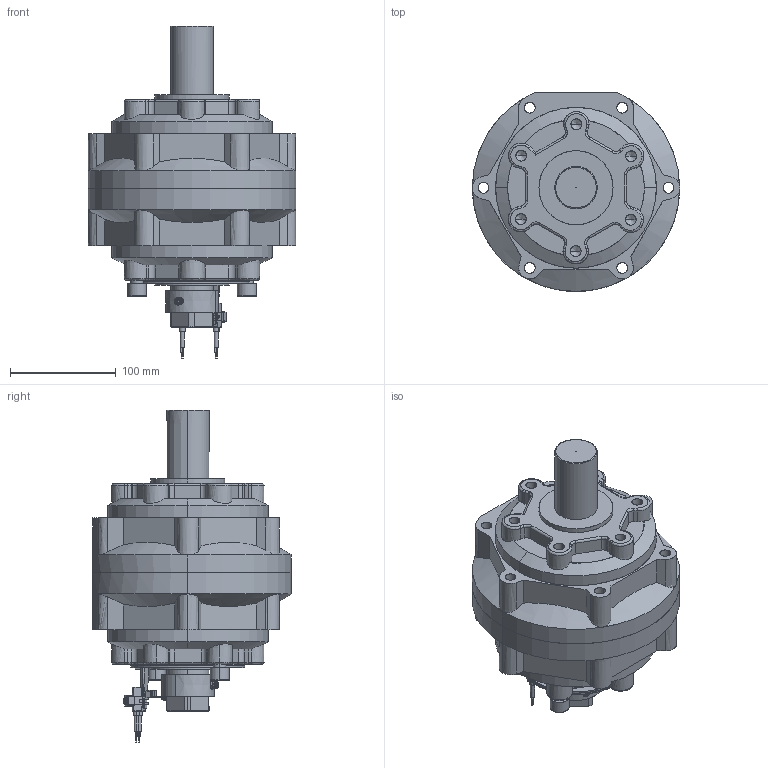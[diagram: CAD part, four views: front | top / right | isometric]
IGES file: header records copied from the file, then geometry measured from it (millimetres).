
Start section: SolidWorks IGES file using analytic representation for surfaces
Global section: file name: C:\Users\Chieh_Lu\Dropbox\¤u§@«Ç\PRN50-150-300-800\PRN800\PRN800\PRN800#-#-#-#-FM-#.IGS; native system: SolidWorks 2014; preprocessor: SolidWorks 2014; author: Chieh_Lu; date: 160115.005039; units: millimetre
Bounding box: 196 x 188.2 x 314 mm (x, y, z)
Surface area: 335752.2 mm2 (no closed solid volume)
Topology: 0 solids, 0 shells, 1010 faces, 12080 edges, 12030 vertices
Faces by surface type: bspline 554, revolution 456
